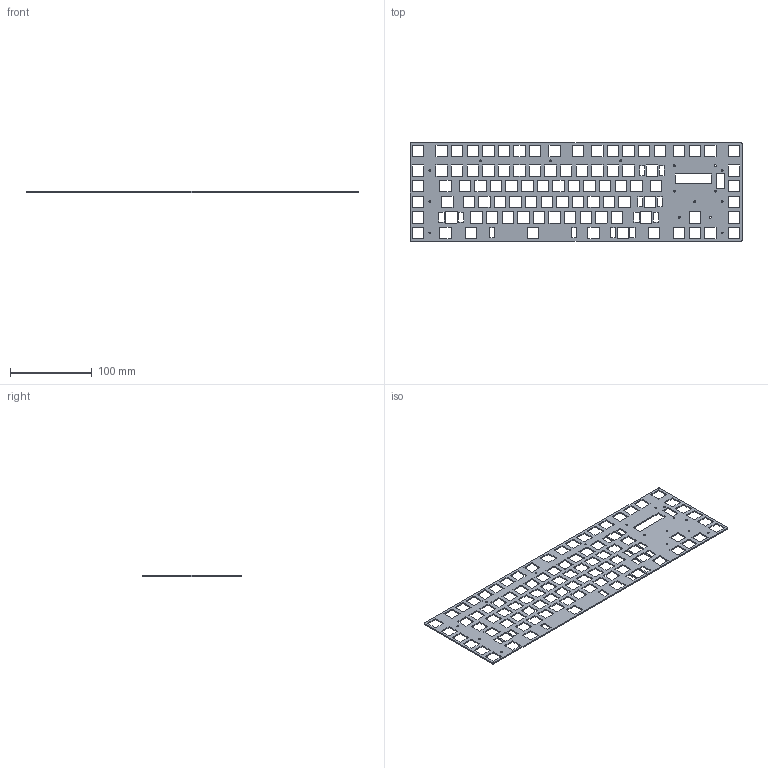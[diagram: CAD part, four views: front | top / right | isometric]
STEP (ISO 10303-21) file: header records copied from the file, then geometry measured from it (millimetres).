
FILE_DESCRIPTION(('Open CASCADE Model'),'2;1');
FILE_NAME('Open CASCADE Shape Model','2026-11-18T14:10:43',('Author'),( 'Open CASCADE'),'Open CASCADE STEP processor 8.0','Open CASCADE 8.0' ,'Unknown');
FILE_SCHEMA(('AUTOMOTIVE_DESIGN { 1 0 10303 214 1 1 1 1 }'));
Products named in the file (1): Open CASCADE STEP translator 8.0 1
Bounding box: 405.81 x 120.06 x 1.5 mm (x, y, z)
Volume: 43457 mm3; surface area: 68283.6 mm2
Topology: 1 solids, 1 shells, 874 faces, 2616 edges, 1744 vertices
Faces by surface type: cylinder 444, plane 430
Full cylindrical faces by diameter (mm): 2.2 x16
Entity records: 64194 total; most frequent: DIRECTION 10486, CARTESIAN_POINT 10467, LINE 6072, VECTOR 6072, ORIENTED_EDGE 5232, PCURVE 5232, DEFINITIONAL_REPRESENTATION 5232, EDGE_CURVE 2616
